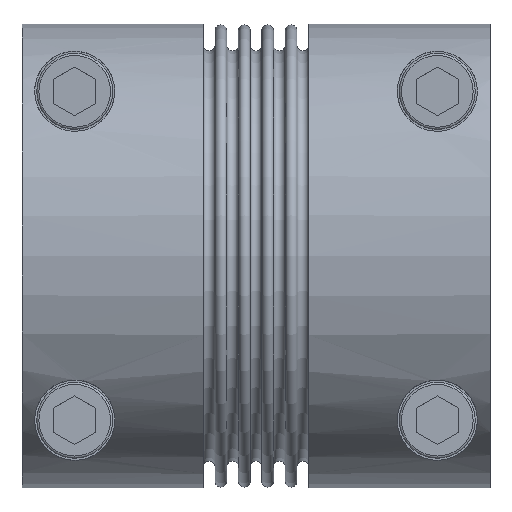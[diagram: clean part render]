
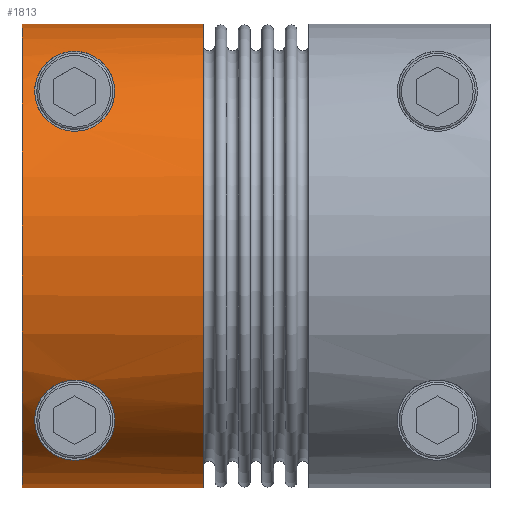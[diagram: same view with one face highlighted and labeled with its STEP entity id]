
A CAD part, top view. The second image highlights one B-rep face of the part: STEP entity #1813.
In plain terms, the highlighted cylindrical face has radius 55 mm (diameter 110 mm), a full revolution.
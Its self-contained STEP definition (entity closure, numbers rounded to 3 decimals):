
#91=FACE_BOUND('',#590,.T.);
#92=FACE_BOUND('',#591,.T.);
#133=B_SPLINE_CURVE_WITH_KNOTS('',3,(#3067,#3068,#3069,#3070,#3071,#3072,
#3073,#3074,#3075,#3076,#3077,#3078,#3079,#3080,#3081,#3082,#3083,#3084,
#3085,#3086,#3087,#3088,#3089,#3090,#3091,#3092,#3093,#3094,#3095,#3096,
#3097,#3098,#3099,#3100,#3101,#3102,#3103,#3104),.UNSPECIFIED.,.T.,.F.,
(4,2,2,2,2,2,2,2,2,2,2,2,2,2,2,2,2,2,4),(0.,0.35,0.7,
1.177,1.654,2.245,2.835,3.214,
3.404,3.594,3.783,3.973,4.352,
4.943,5.533,6.011,6.488,6.838,
7.187),.UNSPECIFIED.);
#134=B_SPLINE_CURVE_WITH_KNOTS('',3,(#3110,#3111,#3112,#3113,#3114,#3115,
#3116,#3117,#3118,#3119,#3120,#3121,#3122,#3123,#3124,#3125,#3126,#3127,
#3128,#3129,#3130,#3131,#3132,#3133,#3134,#3135,#3136,#3137,#3138,#3139,
#3140,#3141,#3142,#3143,#3144,#3145,#3146,#3147),.UNSPECIFIED.,.T.,.F.,
(4,2,2,2,2,2,2,2,2,2,2,2,2,2,2,2,2,2,4),(0.,0.19,0.379,
0.758,1.349,1.94,2.417,2.894,
3.244,3.594,3.943,4.293,4.771,
5.248,5.838,6.429,6.808,6.998,
7.187),.UNSPECIFIED.);
#153=LINE('',#3155,#296);
#154=LINE('',#3159,#297);
#155=LINE('',#3163,#298);
#296=VECTOR('',#2369,55.);
#297=VECTOR('',#2372,28.);
#298=VECTOR('',#2375,28.);
#437=CYLINDRICAL_SURFACE('',#2024,55.);
#475=FACE_OUTER_BOUND('',#589,.T.);
#589=EDGE_LOOP('',(#1395,#1396,#1397,#1398,#1399,#1400,#1401,#1402));
#590=EDGE_LOOP('',(#1403));
#591=EDGE_LOOP('',(#1404));
#787=CIRCLE('',#2025,55.);
#788=CIRCLE('',#2026,55.);
#789=CIRCLE('',#2027,55.);
#790=CIRCLE('',#2028,55.);
#887=VERTEX_POINT('',#3066);
#889=VERTEX_POINT('',#3109);
#891=VERTEX_POINT('',#3152);
#892=VERTEX_POINT('',#3154);
#893=VERTEX_POINT('',#3156);
#894=VERTEX_POINT('',#3158);
#895=VERTEX_POINT('',#3160);
#896=VERTEX_POINT('',#3162);
#1092=EDGE_CURVE('',#887,#887,#133,.T.);
#1095=EDGE_CURVE('',#889,#889,#134,.T.);
#1098=EDGE_CURVE('',#891,#891,#787,.T.);
#1099=EDGE_CURVE('',#891,#892,#153,.T.);
#1100=EDGE_CURVE('',#893,#892,#788,.T.);
#1101=EDGE_CURVE('',#894,#893,#154,.T.);
#1102=EDGE_CURVE('',#895,#894,#789,.T.);
#1103=EDGE_CURVE('',#896,#895,#155,.T.);
#1104=EDGE_CURVE('',#892,#896,#790,.T.);
#1395=ORIENTED_EDGE('',*,*,#1098,.T.);
#1396=ORIENTED_EDGE('',*,*,#1099,.T.);
#1397=ORIENTED_EDGE('',*,*,#1100,.F.);
#1398=ORIENTED_EDGE('',*,*,#1101,.F.);
#1399=ORIENTED_EDGE('',*,*,#1102,.F.);
#1400=ORIENTED_EDGE('',*,*,#1103,.F.);
#1401=ORIENTED_EDGE('',*,*,#1104,.F.);
#1402=ORIENTED_EDGE('',*,*,#1099,.F.);
#1403=ORIENTED_EDGE('',*,*,#1092,.F.);
#1404=ORIENTED_EDGE('',*,*,#1095,.F.);
#1813=ADVANCED_FACE('',(#475,#91,#92),#437,.T.);
#2024=AXIS2_PLACEMENT_3D('',#3151,#2365,#2366);
#2025=AXIS2_PLACEMENT_3D('',#3153,#2367,#2368);
#2026=AXIS2_PLACEMENT_3D('',#3157,#2370,#2371);
#2027=AXIS2_PLACEMENT_3D('',#3161,#2373,#2374);
#2028=AXIS2_PLACEMENT_3D('',#3164,#2376,#2377);
#2365=DIRECTION('center_axis',(1.,0.,0.));
#2366=DIRECTION('ref_axis',(0.,1.,0.));
#2367=DIRECTION('center_axis',(-1.,0.,0.));
#2368=DIRECTION('ref_axis',(0.,1.,0.));
#2369=DIRECTION('',(-1.,0.,0.));
#2370=DIRECTION('center_axis',(-1.,0.,0.));
#2371=DIRECTION('ref_axis',(0.,-1.,0.));
#2372=DIRECTION('',(1.,0.,0.));
#2373=DIRECTION('center_axis',(-1.,0.,0.));
#2374=DIRECTION('ref_axis',(0.,1.,0.));
#2375=DIRECTION('',(-1.,0.,0.));
#2376=DIRECTION('center_axis',(-1.,0.,0.));
#2377=DIRECTION('ref_axis',(0.,-1.,0.));
#3066=CARTESIAN_POINT('',(12.5,-29.5,46.419));
#3067=CARTESIAN_POINT('Ctrl Pts',(12.5,-29.5,46.419));
#3068=CARTESIAN_POINT('Ctrl Pts',(11.334,-29.5,46.419));
#3069=CARTESIAN_POINT('Ctrl Pts',(10.105,-29.729,46.276));
#3070=CARTESIAN_POINT('Ctrl Pts',(7.881,-30.613,45.696));
#3071=CARTESIAN_POINT('Ctrl Pts',(6.885,-31.265,45.257));
#3072=CARTESIAN_POINT('Ctrl Pts',(5.047,-32.937,44.063));
#3073=CARTESIAN_POINT('Ctrl Pts',(4.231,-34.135,43.156));
#3074=CARTESIAN_POINT('Ctrl Pts',(3.21,-36.607,41.08));
#3075=CARTESIAN_POINT('Ctrl Pts',(3.,-37.878,39.91));
#3076=CARTESIAN_POINT('Ctrl Pts',(3.,-40.388,37.386));
#3077=CARTESIAN_POINT('Ctrl Pts',(3.315,-41.8,35.804));
#3078=CARTESIAN_POINT('Ctrl Pts',(4.512,-44.329,32.62));
#3079=CARTESIAN_POINT('Ctrl Pts',(5.386,-45.449,31.017));
#3080=CARTESIAN_POINT('Ctrl Pts',(7.157,-46.906,28.739));
#3081=CARTESIAN_POINT('Ctrl Pts',(8.031,-47.454,27.816));
#3082=CARTESIAN_POINT('Ctrl Pts',(9.561,-48.05,26.764));
#3083=CARTESIAN_POINT('Ctrl Pts',(10.107,-48.212,26.469));
#3084=CARTESIAN_POINT('Ctrl Pts',(11.26,-48.437,26.056));
#3085=CARTESIAN_POINT('Ctrl Pts',(11.868,-48.5,25.937));
#3086=CARTESIAN_POINT('Ctrl Pts',(13.132,-48.5,25.937));
#3087=CARTESIAN_POINT('Ctrl Pts',(13.74,-48.437,26.056));
#3088=CARTESIAN_POINT('Ctrl Pts',(14.893,-48.212,26.469));
#3089=CARTESIAN_POINT('Ctrl Pts',(15.439,-48.05,26.764));
#3090=CARTESIAN_POINT('Ctrl Pts',(16.969,-47.454,27.816));
#3091=CARTESIAN_POINT('Ctrl Pts',(17.843,-46.906,28.739));
#3092=CARTESIAN_POINT('Ctrl Pts',(19.614,-45.449,31.017));
#3093=CARTESIAN_POINT('Ctrl Pts',(20.488,-44.329,32.62));
#3094=CARTESIAN_POINT('Ctrl Pts',(21.685,-41.8,35.804));
#3095=CARTESIAN_POINT('Ctrl Pts',(22.,-40.388,37.386));
#3096=CARTESIAN_POINT('Ctrl Pts',(22.,-37.878,39.91));
#3097=CARTESIAN_POINT('Ctrl Pts',(21.79,-36.607,41.08));
#3098=CARTESIAN_POINT('Ctrl Pts',(20.769,-34.135,43.156));
#3099=CARTESIAN_POINT('Ctrl Pts',(19.953,-32.937,44.063));
#3100=CARTESIAN_POINT('Ctrl Pts',(18.115,-31.265,45.257));
#3101=CARTESIAN_POINT('Ctrl Pts',(17.119,-30.613,45.696));
#3102=CARTESIAN_POINT('Ctrl Pts',(14.895,-29.729,46.276));
#3103=CARTESIAN_POINT('Ctrl Pts',(13.666,-29.5,46.419));
#3104=CARTESIAN_POINT('Ctrl Pts',(12.5,-29.5,46.419));
#3109=CARTESIAN_POINT('',(12.5,29.5,46.419));
#3110=CARTESIAN_POINT('Ctrl Pts',(12.5,48.5,25.937));
#3111=CARTESIAN_POINT('Ctrl Pts',(11.868,48.5,25.937));
#3112=CARTESIAN_POINT('Ctrl Pts',(11.26,48.437,26.056));
#3113=CARTESIAN_POINT('Ctrl Pts',(10.107,48.212,26.469));
#3114=CARTESIAN_POINT('Ctrl Pts',(9.561,48.05,26.764));
#3115=CARTESIAN_POINT('Ctrl Pts',(8.031,47.454,27.816));
#3116=CARTESIAN_POINT('Ctrl Pts',(7.157,46.906,28.739));
#3117=CARTESIAN_POINT('Ctrl Pts',(5.386,45.449,31.017));
#3118=CARTESIAN_POINT('Ctrl Pts',(4.512,44.329,32.62));
#3119=CARTESIAN_POINT('Ctrl Pts',(3.315,41.8,35.804));
#3120=CARTESIAN_POINT('Ctrl Pts',(3.,40.388,37.386));
#3121=CARTESIAN_POINT('Ctrl Pts',(3.,37.878,39.91));
#3122=CARTESIAN_POINT('Ctrl Pts',(3.21,36.607,41.08));
#3123=CARTESIAN_POINT('Ctrl Pts',(4.231,34.135,43.156));
#3124=CARTESIAN_POINT('Ctrl Pts',(5.047,32.937,44.063));
#3125=CARTESIAN_POINT('Ctrl Pts',(6.885,31.265,45.257));
#3126=CARTESIAN_POINT('Ctrl Pts',(7.881,30.613,45.696));
#3127=CARTESIAN_POINT('Ctrl Pts',(10.105,29.729,46.276));
#3128=CARTESIAN_POINT('Ctrl Pts',(11.334,29.5,46.419));
#3129=CARTESIAN_POINT('Ctrl Pts',(13.666,29.5,46.419));
#3130=CARTESIAN_POINT('Ctrl Pts',(14.895,29.729,46.276));
#3131=CARTESIAN_POINT('Ctrl Pts',(17.119,30.613,45.696));
#3132=CARTESIAN_POINT('Ctrl Pts',(18.115,31.265,45.257));
#3133=CARTESIAN_POINT('Ctrl Pts',(19.953,32.937,44.063));
#3134=CARTESIAN_POINT('Ctrl Pts',(20.769,34.135,43.156));
#3135=CARTESIAN_POINT('Ctrl Pts',(21.79,36.607,41.08));
#3136=CARTESIAN_POINT('Ctrl Pts',(22.,37.878,39.91));
#3137=CARTESIAN_POINT('Ctrl Pts',(22.,40.388,37.386));
#3138=CARTESIAN_POINT('Ctrl Pts',(21.685,41.8,35.804));
#3139=CARTESIAN_POINT('Ctrl Pts',(20.488,44.329,32.62));
#3140=CARTESIAN_POINT('Ctrl Pts',(19.614,45.449,31.017));
#3141=CARTESIAN_POINT('Ctrl Pts',(17.843,46.906,28.739));
#3142=CARTESIAN_POINT('Ctrl Pts',(16.969,47.454,27.816));
#3143=CARTESIAN_POINT('Ctrl Pts',(15.439,48.05,26.764));
#3144=CARTESIAN_POINT('Ctrl Pts',(14.893,48.212,26.469));
#3145=CARTESIAN_POINT('Ctrl Pts',(13.74,48.437,26.056));
#3146=CARTESIAN_POINT('Ctrl Pts',(13.132,48.5,25.937));
#3147=CARTESIAN_POINT('Ctrl Pts',(12.5,48.5,25.937));
#3151=CARTESIAN_POINT('Origin',(0.,0.,0.));
#3152=CARTESIAN_POINT('',(43.,-55.,0.));
#3153=CARTESIAN_POINT('Origin',(43.,0.,0.));
#3154=CARTESIAN_POINT('',(28.,-55.,0.));
#3155=CARTESIAN_POINT('',(0.,-55.,0.));
#3156=CARTESIAN_POINT('',(28.,54.991,1.));
#3157=CARTESIAN_POINT('Origin',(28.,0.,0.));
#3158=CARTESIAN_POINT('',(0.,54.991,1.));
#3159=CARTESIAN_POINT('',(0.,54.991,1.));
#3160=CARTESIAN_POINT('',(0.,-54.991,1.));
#3161=CARTESIAN_POINT('Origin',(0.,0.,0.));
#3162=CARTESIAN_POINT('',(28.,-54.991,1.));
#3163=CARTESIAN_POINT('',(28.,-54.991,1.));
#3164=CARTESIAN_POINT('Origin',(28.,0.,0.));
